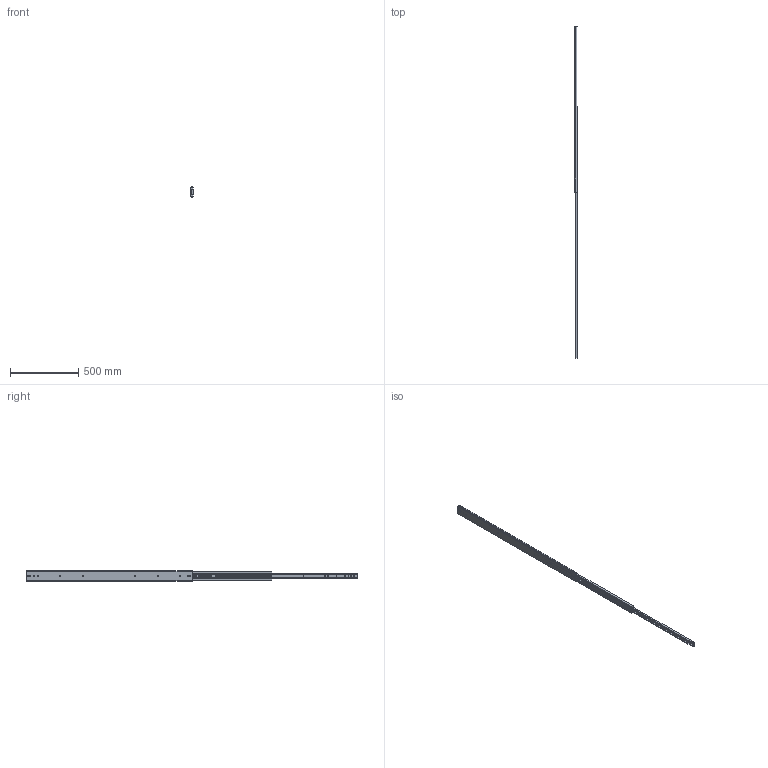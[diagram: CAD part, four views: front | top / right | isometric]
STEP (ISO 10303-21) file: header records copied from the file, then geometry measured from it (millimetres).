
FILE_DESCRIPTION(/* description */ ('Unknown'),/* implementation_level */ '2;1');
FILE_NAME(/* name */ '76J01-48 open',/* time_stamp */ '2024-07-30T09:35:31+08:00',/* author */ ('Unknown'),/* organization */ ('Unknown'),/* preprocessor_version */ 'ST-DEVELOPER v18.104',/* originating_system */ 'Solid Edge',/* authorisation */ 'Unknown');
FILE_SCHEMA (('AUTOMOTIVE_DESIGN {1 0 10303 214 3 1 1}'));
Length unit declared in the file: millimetre
Products named in the file (4): 76J01-48 open; 76J01 48 inch  內_0; 76J01 48 吋中_R_ALT_DATA_ATTRIB; 76J01 48 ¦Tš
Assembly tree (3 placements, depth 2):
  76J01-48 open
    76J01 48 inch  內_0
    76J01 48 吋中_R_ALT_DATA_ATTRIB
    76J01 48 ¦Tš
Bounding box: 19.3 x 2437.7 x 76.76 mm (x, y, z)
Volume: 961997.2 mm3; surface area: 598373.9 mm2
Topology: 3 solids, 3 shells, 199 faces, 614 edges, 415 vertices
Faces by surface type: plane 104, cylinder 95
Full cylindrical faces by diameter (mm): 5.2 x15, 7.1 x2
Entity records: 7307 total; most frequent: CARTESIAN_POINT 1187, DIRECTION 1174, ORIENTED_EDGE 1160, EDGE_CURVE 580, VERTEX_POINT 398, AXIS2_PLACEMENT_3D 393, LINE 388, VECTOR 388
